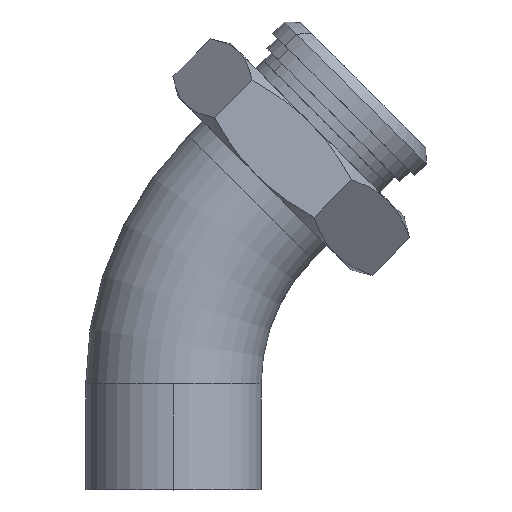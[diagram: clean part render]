
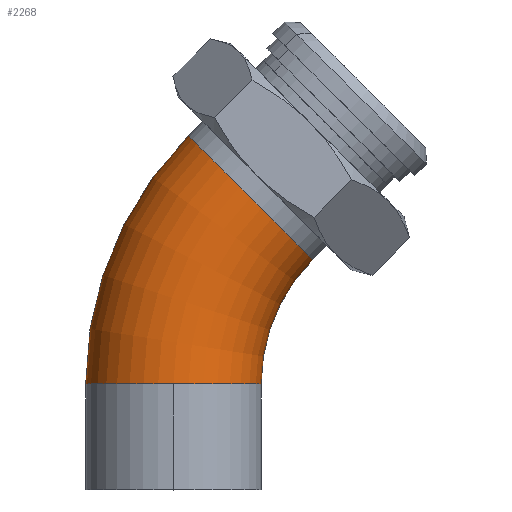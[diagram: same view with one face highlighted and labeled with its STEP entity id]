
A CAD part, top view. The second image highlights one B-rep face of the part: STEP entity #2268.
In plain terms, the highlighted toroidal (fillet/blend) face has major radius 114.3 mm and minor radius 38.1 mm.
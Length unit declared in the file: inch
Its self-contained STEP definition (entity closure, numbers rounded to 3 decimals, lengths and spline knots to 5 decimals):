
#159 = DIRECTION ( 'NONE',  ( 1., 0., 0. ) ) ;
#231 = CIRCLE ( 'NONE', #1434, 1.5 ) ;
#274 = VERTEX_POINT ( 'NONE', #2078 ) ;
#323 = EDGE_CURVE ( 'NONE', #672, #966, #538, .T. ) ;
#331 = DIRECTION ( 'NONE',  ( 0., 0., 1. ) ) ;
#419 = EDGE_CURVE ( 'NONE', #691, #966, #231, .T. ) ;
#497 = DIRECTION ( 'NONE',  ( 0.707, 0.707, 0. ) ) ;
#505 = EDGE_CURVE ( 'NONE', #274, #691, #1590, .T. ) ;
#538 = CIRCLE ( 'NONE', #3763, 3. ) ;
#672 = VERTEX_POINT ( 'NONE', #3623 ) ;
#678 = EDGE_CURVE ( 'NONE', #1419, #274, #1294, .T. ) ;
#691 = VERTEX_POINT ( 'NONE', #3636 ) ;
#754 = EDGE_CURVE ( 'NONE', #1419, #672, #1811, .T. ) ;
#758 = ORIENTED_EDGE ( 'NONE', *, *, #754, .F. ) ;
#918 = DIRECTION ( 'NONE',  ( 1., 0., 0. ) ) ;
#966 = VERTEX_POINT ( 'NONE', #1803 ) ;
#1087 = AXIS2_PLACEMENT_3D ( 'NONE', #2210, #331, #2542 ) ;
#1141 = AXIS2_PLACEMENT_3D ( 'NONE', #3540, #1628, #3855 ) ;
#1200 = DIRECTION ( 'NONE',  ( 0., 0., 1. ) ) ;
#1272 = CARTESIAN_POINT ( 'NONE',  ( 0., 1.812, 0. ) ) ;
#1294 = CIRCLE ( 'NONE', #2447, 6. ) ;
#1419 = VERTEX_POINT ( 'NONE', #3322 ) ;
#1434 = AXIS2_PLACEMENT_3D ( 'NONE', #1272, #3491, #1588 ) ;
#1588 = DIRECTION ( 'NONE',  ( -1., 0., 0. ) ) ;
#1590 = CIRCLE ( 'NONE', #1141, 1.5 ) ;
#1628 = DIRECTION ( 'NONE',  ( 0., 1., 0. ) ) ;
#1678 = FACE_OUTER_BOUND ( 'NONE', #2302, .T. ) ;
#1803 = CARTESIAN_POINT ( 'NONE',  ( 1.5, 1.812, 0. ) ) ;
#1811 = CIRCLE ( 'NONE', #3271, 1.5 ) ;
#2051 = DIRECTION ( 'NONE',  ( 0., 0., 1. ) ) ;
#2078 = CARTESIAN_POINT ( 'NONE',  ( -1.5, 1.812, 0. ) ) ;
#2210 = CARTESIAN_POINT ( 'NONE',  ( 4.5, 1.812, 0. ) ) ;
#2251 = ORIENTED_EDGE ( 'NONE', *, *, #505, .T. ) ;
#2268 = ADVANCED_FACE ( 'NONE', ( #1678 ), #3283, .T. ) ;
#2302 = EDGE_LOOP ( 'NONE', ( #758, #3301, #2251, #3254, #4091 ) ) ;
#2386 = CARTESIAN_POINT ( 'NONE',  ( 1.31802, 4.99398, 0. ) ) ;
#2447 = AXIS2_PLACEMENT_3D ( 'NONE', #3956, #2051, #159 ) ;
#2542 = DIRECTION ( 'NONE',  ( 1., 0., 0. ) ) ;
#2702 = DIRECTION ( 'NONE',  ( -0.707, 0.707, 0. ) ) ;
#3254 = ORIENTED_EDGE ( 'NONE', *, *, #419, .T. ) ;
#3271 = AXIS2_PLACEMENT_3D ( 'NONE', #2386, #497, #2702 ) ;
#3283 = TOROIDAL_SURFACE ( 'NONE', #1087, 4.5, 1.5 ) ;
#3301 = ORIENTED_EDGE ( 'NONE', *, *, #678, .T. ) ;
#3322 = CARTESIAN_POINT ( 'NONE',  ( 0.25736, 6.05464, 0. ) ) ;
#3410 = CARTESIAN_POINT ( 'NONE',  ( 4.5, 1.812, 0. ) ) ;
#3491 = DIRECTION ( 'NONE',  ( 0., 1., 0. ) ) ;
#3540 = CARTESIAN_POINT ( 'NONE',  ( 0., 1.812, 0. ) ) ;
#3623 = CARTESIAN_POINT ( 'NONE',  ( 2.37868, 3.93332, 0. ) ) ;
#3636 = CARTESIAN_POINT ( 'NONE',  ( 0., 1.812, 1.5 ) ) ;
#3763 = AXIS2_PLACEMENT_3D ( 'NONE', #3410, #1200, #918 ) ;
#3855 = DIRECTION ( 'NONE',  ( -1., 0., 0. ) ) ;
#3956 = CARTESIAN_POINT ( 'NONE',  ( 4.5, 1.812, 0. ) ) ;
#4091 = ORIENTED_EDGE ( 'NONE', *, *, #323, .F. ) ;
